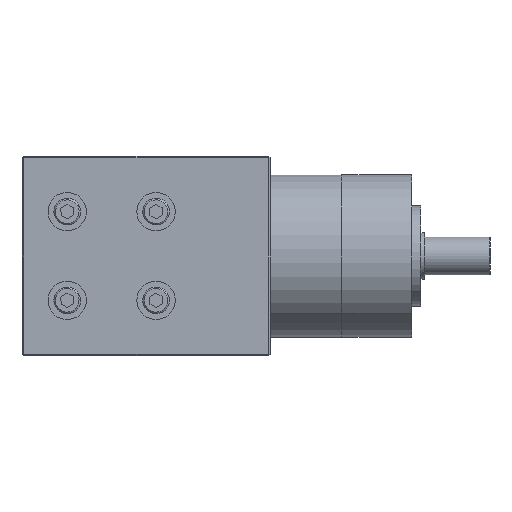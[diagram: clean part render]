
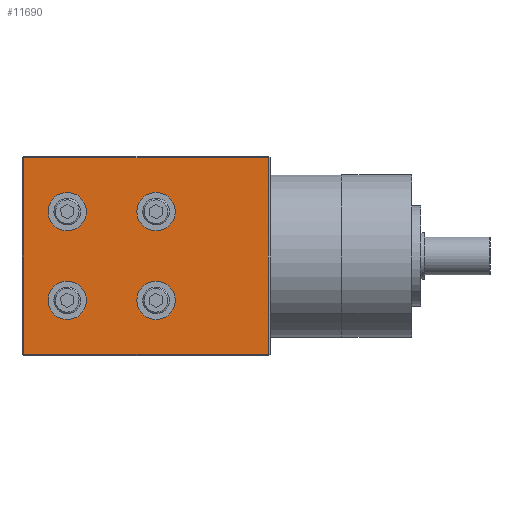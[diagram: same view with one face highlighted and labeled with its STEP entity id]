
A CAD part, front view. The second image highlights one B-rep face of the part: STEP entity #11690.
In plain terms, the highlighted planar face has unit normal (0, -1, 0).
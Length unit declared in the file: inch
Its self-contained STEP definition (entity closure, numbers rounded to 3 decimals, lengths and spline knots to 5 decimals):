
#195 = EDGE_CURVE ( 'NONE', #13984, #7086, #5228, .T. ) ;
#367 = VERTEX_POINT ( 'NONE', #4626 ) ;
#474 = ORIENTED_EDGE ( 'NONE', *, *, #15085, .F. ) ;
#529 = EDGE_CURVE ( 'NONE', #16638, #367, #3386, .T. ) ;
#1063 = LINE ( 'NONE', #1180, #10896 ) ;
#1080 = ORIENTED_EDGE ( 'NONE', *, *, #9113, .F. ) ;
#1127 = DIRECTION ( 'NONE',  ( 0., -1., 0. ) ) ;
#1149 = EDGE_LOOP ( 'NONE', ( #2130, #1080 ) ) ;
#1180 = CARTESIAN_POINT ( 'NONE',  ( 4.78104, -0.3548, 0.46555 ) ) ;
#1203 = AXIS2_PLACEMENT_3D ( 'NONE', #14469, #15716, #1442 ) ;
#1282 = EDGE_LOOP ( 'NONE', ( #9749, #12666 ) ) ;
#1442 = DIRECTION ( 'NONE',  ( 0., 0., -1. ) ) ;
#1861 = EDGE_CURVE ( 'NONE', #367, #16638, #9617, .T. ) ;
#1956 = PLANE ( 'NONE',  #11481 ) ;
#2041 = VERTEX_POINT ( 'NONE', #12739 ) ;
#2130 = ORIENTED_EDGE ( 'NONE', *, *, #7621, .F. ) ;
#2823 = CARTESIAN_POINT ( 'NONE',  ( 6.46289, -0.3548, 2.2524 ) ) ;
#2958 = ORIENTED_EDGE ( 'NONE', *, *, #7221, .F. ) ;
#3065 = ORIENTED_EDGE ( 'NONE', *, *, #8485, .F. ) ;
#3213 = VERTEX_POINT ( 'NONE', #6751 ) ;
#3350 = DIRECTION ( 'NONE',  ( 0., 0., 1. ) ) ;
#3386 = CIRCLE ( 'NONE', #10377, 0.24094 ) ;
#4068 = ORIENTED_EDGE ( 'NONE', *, *, #195, .T. ) ;
#4099 = ORIENTED_EDGE ( 'NONE', *, *, #11446, .T. ) ;
#4155 = CIRCLE ( 'NONE', #9952, 0.24094 ) ;
#4272 = CIRCLE ( 'NONE', #5589, 0.24094 ) ;
#4502 = VERTEX_POINT ( 'NONE', #11326 ) ;
#4626 = CARTESIAN_POINT ( 'NONE',  ( 6.46289, -0.3548, 0.89776 ) ) ;
#4997 = AXIS2_PLACEMENT_3D ( 'NONE', #16190, #8534, #7079 ) ;
#5228 = LINE ( 'NONE', #6821, #14272 ) ;
#5258 = CARTESIAN_POINT ( 'NONE',  ( 6.46289, -0.3548, 1.37965 ) ) ;
#5279 = ORIENTED_EDGE ( 'NONE', *, *, #5457, .F. ) ;
#5457 = EDGE_CURVE ( 'NONE', #2041, #4502, #4272, .T. ) ;
#5487 = EDGE_CURVE ( 'NONE', #16596, #11066, #1063, .T. ) ;
#5589 = AXIS2_PLACEMENT_3D ( 'NONE', #12657, #1127, #7683 ) ;
#5664 = VERTEX_POINT ( 'NONE', #13338 ) ;
#5715 = EDGE_CURVE ( 'NONE', #11066, #13984, #14135, .T. ) ;
#5830 = CARTESIAN_POINT ( 'NONE',  ( 6.46289, -0.3548, 2.2524 ) ) ;
#5971 = EDGE_LOOP ( 'NONE', ( #14023, #8363, #4068, #4099 ) ) ;
#6007 = CARTESIAN_POINT ( 'NONE',  ( 6.46289, -0.3548, 2.01145 ) ) ;
#6075 = VECTOR ( 'NONE', #16493, 39.37008 ) ;
#6079 = LINE ( 'NONE', #7715, #15944 ) ;
#6256 = DIRECTION ( 'NONE',  ( 0., 0., -1. ) ) ;
#6590 = DIRECTION ( 'NONE',  ( 0., -1., 0. ) ) ;
#6624 = CIRCLE ( 'NONE', #13356, 0.24094 ) ;
#6751 = CARTESIAN_POINT ( 'NONE',  ( 6.46289, -0.3548, 2.49334 ) ) ;
#6821 = CARTESIAN_POINT ( 'NONE',  ( 4.78104, -0.3548, 2.92555 ) ) ;
#6865 = DIRECTION ( 'NONE',  ( 0., 0., -1. ) ) ;
#6902 = DIRECTION ( 'NONE',  ( 0., -1., 0. ) ) ;
#7049 = DIRECTION ( 'NONE',  ( 0., -1., 0. ) ) ;
#7079 = DIRECTION ( 'NONE',  ( 0., 0., -1. ) ) ;
#7086 = VERTEX_POINT ( 'NONE', #7439 ) ;
#7221 = EDGE_CURVE ( 'NONE', #4502, #2041, #13671, .T. ) ;
#7439 = CARTESIAN_POINT ( 'NONE',  ( 4.80104, -0.3548, 2.92555 ) ) ;
#7621 = EDGE_CURVE ( 'NONE', #9675, #3213, #6624, .T. ) ;
#7683 = DIRECTION ( 'NONE',  ( 0., 0., -1. ) ) ;
#7715 = CARTESIAN_POINT ( 'NONE',  ( 4.80104, -0.3548, 2.94555 ) ) ;
#7743 = DIRECTION ( 'NONE',  ( 1., 0., 0. ) ) ;
#8082 = FACE_BOUND ( 'NONE', #1282, .T. ) ;
#8363 = ORIENTED_EDGE ( 'NONE', *, *, #5715, .T. ) ;
#8485 = EDGE_CURVE ( 'NONE', #12850, #5664, #15250, .T. ) ;
#8534 = DIRECTION ( 'NONE',  ( 0., -1., 0. ) ) ;
#9113 = EDGE_CURVE ( 'NONE', #3213, #9675, #4155, .T. ) ;
#9384 = EDGE_LOOP ( 'NONE', ( #474, #3065 ) ) ;
#9608 = DIRECTION ( 'NONE',  ( 0., 0., -1. ) ) ;
#9617 = CIRCLE ( 'NONE', #4997, 0.24094 ) ;
#9634 = CARTESIAN_POINT ( 'NONE',  ( 5.34919, -0.3548, 2.2524 ) ) ;
#9652 = EDGE_LOOP ( 'NONE', ( #5279, #2958 ) ) ;
#9675 = VERTEX_POINT ( 'NONE', #6007 ) ;
#9749 = ORIENTED_EDGE ( 'NONE', *, *, #1861, .F. ) ;
#9952 = AXIS2_PLACEMENT_3D ( 'NONE', #5830, #12124, #9608 ) ;
#10377 = AXIS2_PLACEMENT_3D ( 'NONE', #13946, #16491, #6256 ) ;
#10896 = VECTOR ( 'NONE', #7743, 39.37008 ) ;
#11051 = CARTESIAN_POINT ( 'NONE',  ( 4.78104, -0.3548, 2.94555 ) ) ;
#11066 = VERTEX_POINT ( 'NONE', #13417 ) ;
#11092 = FACE_BOUND ( 'NONE', #1149, .T. ) ;
#11326 = CARTESIAN_POINT ( 'NONE',  ( 5.34919, -0.3548, 1.37965 ) ) ;
#11446 = EDGE_CURVE ( 'NONE', #7086, #16596, #6079, .T. ) ;
#11481 = AXIS2_PLACEMENT_3D ( 'NONE', #11051, #16120, #3350 ) ;
#11487 = FACE_BOUND ( 'NONE', #9652, .T. ) ;
#11690 = ADVANCED_FACE ( 'NONE', ( #14509, #13511, #11487, #8082, #11092 ), #1956, .F. ) ;
#12124 = DIRECTION ( 'NONE',  ( 0., -1., 0. ) ) ;
#12657 = CARTESIAN_POINT ( 'NONE',  ( 5.34919, -0.3548, 1.13871 ) ) ;
#12666 = ORIENTED_EDGE ( 'NONE', *, *, #529, .F. ) ;
#12683 = DIRECTION ( 'NONE',  ( 0., 0., -1. ) ) ;
#12739 = CARTESIAN_POINT ( 'NONE',  ( 5.34919, -0.3548, 0.89776 ) ) ;
#12850 = VERTEX_POINT ( 'NONE', #15371 ) ;
#12986 = CARTESIAN_POINT ( 'NONE',  ( 5.34919, -0.3548, 1.13871 ) ) ;
#13338 = CARTESIAN_POINT ( 'NONE',  ( 5.34919, -0.3548, 2.01145 ) ) ;
#13356 = AXIS2_PLACEMENT_3D ( 'NONE', #2823, #6902, #15890 ) ;
#13417 = CARTESIAN_POINT ( 'NONE',  ( 7.87404, -0.3548, 0.46555 ) ) ;
#13511 = FACE_BOUND ( 'NONE', #9384, .T. ) ;
#13671 = CIRCLE ( 'NONE', #16617, 0.24094 ) ;
#13794 = AXIS2_PLACEMENT_3D ( 'NONE', #9634, #7049, #16397 ) ;
#13822 = CARTESIAN_POINT ( 'NONE',  ( 7.87404, -0.3548, 2.94555 ) ) ;
#13946 = CARTESIAN_POINT ( 'NONE',  ( 6.46289, -0.3548, 1.13871 ) ) ;
#13984 = VERTEX_POINT ( 'NONE', #15762 ) ;
#14023 = ORIENTED_EDGE ( 'NONE', *, *, #5487, .T. ) ;
#14135 = LINE ( 'NONE', #13822, #6075 ) ;
#14272 = VECTOR ( 'NONE', #14362, 39.37008 ) ;
#14362 = DIRECTION ( 'NONE',  ( -1., 0., 0. ) ) ;
#14469 = CARTESIAN_POINT ( 'NONE',  ( 5.34919, -0.3548, 2.2524 ) ) ;
#14509 = FACE_OUTER_BOUND ( 'NONE', #5971, .T. ) ;
#15085 = EDGE_CURVE ( 'NONE', #5664, #12850, #15646, .T. ) ;
#15250 = CIRCLE ( 'NONE', #13794, 0.24094 ) ;
#15371 = CARTESIAN_POINT ( 'NONE',  ( 5.34919, -0.3548, 2.49334 ) ) ;
#15439 = CARTESIAN_POINT ( 'NONE',  ( 4.80104, -0.3548, 0.46555 ) ) ;
#15646 = CIRCLE ( 'NONE', #1203, 0.24094 ) ;
#15716 = DIRECTION ( 'NONE',  ( 0., -1., 0. ) ) ;
#15762 = CARTESIAN_POINT ( 'NONE',  ( 7.87404, -0.3548, 2.92555 ) ) ;
#15890 = DIRECTION ( 'NONE',  ( 0., 0., -1. ) ) ;
#15944 = VECTOR ( 'NONE', #12683, 39.37008 ) ;
#16120 = DIRECTION ( 'NONE',  ( 0., 1., 0. ) ) ;
#16190 = CARTESIAN_POINT ( 'NONE',  ( 6.46289, -0.3548, 1.13871 ) ) ;
#16397 = DIRECTION ( 'NONE',  ( 0., 0., -1. ) ) ;
#16491 = DIRECTION ( 'NONE',  ( 0., -1., 0. ) ) ;
#16493 = DIRECTION ( 'NONE',  ( 0., 0., 1. ) ) ;
#16596 = VERTEX_POINT ( 'NONE', #15439 ) ;
#16617 = AXIS2_PLACEMENT_3D ( 'NONE', #12986, #6590, #6865 ) ;
#16638 = VERTEX_POINT ( 'NONE', #5258 ) ;
